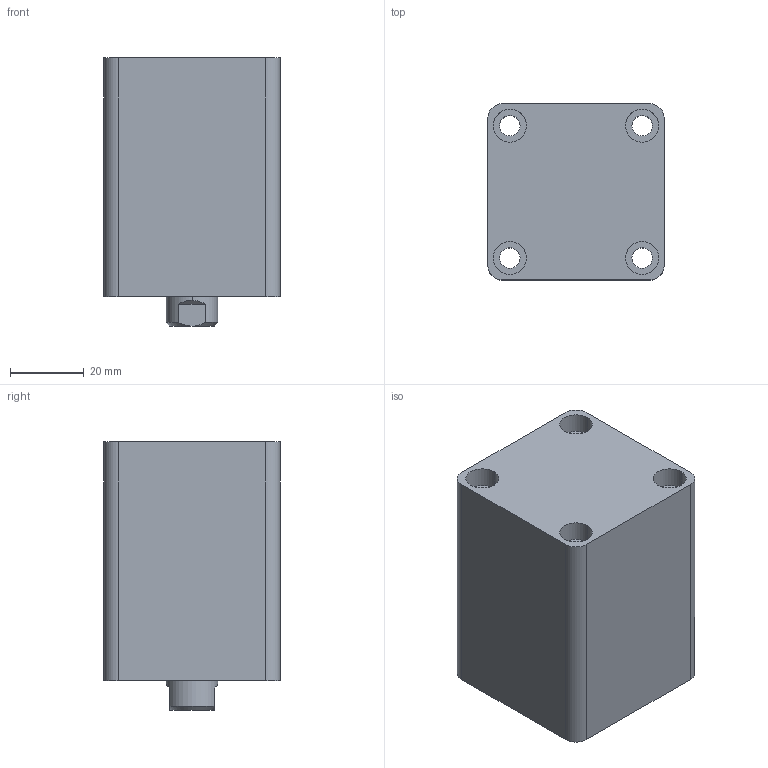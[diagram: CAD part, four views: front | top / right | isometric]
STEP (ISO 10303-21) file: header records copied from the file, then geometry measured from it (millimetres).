
FILE_DESCRIPTION (( 'STEP AP203' ), '1' );
FILE_NAME ('HTB-SD25-20N.STEP', '2019-10-07T05:58:30', ( '微软用户' ), ( '微软中国' ), 'SwSTEP 2.0', 'SolidWorks 2012', '' );
FILE_SCHEMA (( 'CONFIG_CONTROL_DESIGN' ));
Length unit declared in the file: millimetre
Products named in the file (3): HTB-SD25-20掛极; HTB-SD25-20N活塞杆; HTB-SD25-20N
Assembly tree (2 placements, depth 2):
  HTB-SD25-20N
    HTB-SD25-20掛极
    HTB-SD25-20N活塞杆
Bounding box: 48 x 48 x 73 mm (x, y, z)
Volume: 133260.3 mm3; surface area: 31009.3 mm2
Topology: 2 solids, 2 shells, 83 faces, 182 edges, 117 vertices
Faces by surface type: cylinder 42, plane 27, cone 8, torus 6
Entity records: 2653 total; most frequent: DIRECTION 454, CARTESIAN_POINT 429, ORIENTED_EDGE 360, AXIS2_PLACEMENT_3D 194, EDGE_CURVE 180, VERTEX_POINT 117, EDGE_LOOP 107, CIRCLE 106
